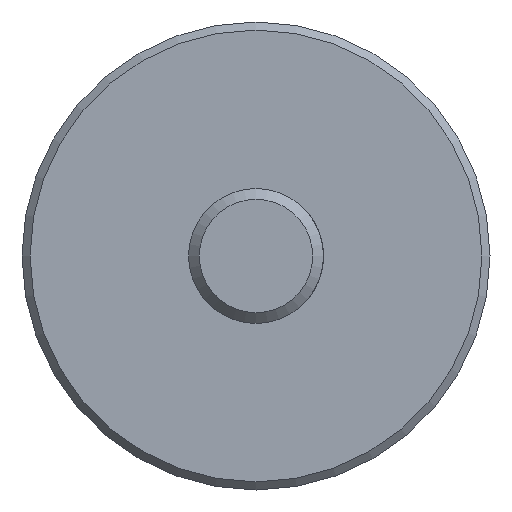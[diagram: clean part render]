
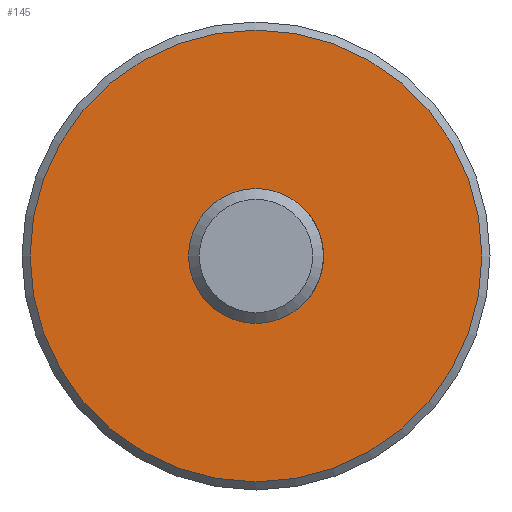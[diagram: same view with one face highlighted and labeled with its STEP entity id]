
A CAD part, front view. The second image highlights one B-rep face of the part: STEP entity #145.
In plain terms, the highlighted planar face has unit normal (0, -1, 0).
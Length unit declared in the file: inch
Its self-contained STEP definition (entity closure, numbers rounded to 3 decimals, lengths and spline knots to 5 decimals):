
#73 = CARTESIAN_POINT ( 'NONE',  ( 0., 3.35, 0. ) ) ;
#74 = VERTEX_POINT ( 'NONE', #170 ) ;
#86 = CIRCLE ( 'NONE', #562, 1.255 ) ;
#96 = AXIS2_PLACEMENT_3D ( 'NONE', #152, #450, #369 ) ;
#125 = CARTESIAN_POINT ( 'NONE',  ( 0., 3.35, 1.255 ) ) ;
#145 = ADVANCED_FACE ( 'NONE', ( #194, #405 ), #190, .F. ) ;
#152 = CARTESIAN_POINT ( 'NONE',  ( 0.375, 3.35, 0. ) ) ;
#170 = CARTESIAN_POINT ( 'NONE',  ( 0., 3.35, 0.375 ) ) ;
#190 = PLANE ( 'NONE',  #96 ) ;
#194 = FACE_OUTER_BOUND ( 'NONE', #470, .T. ) ;
#217 = VERTEX_POINT ( 'NONE', #125 ) ;
#232 = AXIS2_PLACEMENT_3D ( 'NONE', #73, #327, #243 ) ;
#243 = DIRECTION ( 'NONE',  ( 0., 0., 1. ) ) ;
#284 = EDGE_CURVE ( 'NONE', #74, #74, #512, .T. ) ;
#294 = EDGE_CURVE ( 'NONE', #217, #217, #86, .T. ) ;
#303 = ORIENTED_EDGE ( 'NONE', *, *, #284, .T. ) ;
#327 = DIRECTION ( 'NONE',  ( 0., 1., 0. ) ) ;
#348 = EDGE_LOOP ( 'NONE', ( #303 ) ) ;
#369 = DIRECTION ( 'NONE',  ( 0., 0., 1. ) ) ;
#375 = CARTESIAN_POINT ( 'NONE',  ( 0., 3.35, 0. ) ) ;
#384 = DIRECTION ( 'NONE',  ( 0., 1., 0. ) ) ;
#405 = FACE_BOUND ( 'NONE', #348, .T. ) ;
#426 = ORIENTED_EDGE ( 'NONE', *, *, #294, .F. ) ;
#427 = DIRECTION ( 'NONE',  ( 0., 0., 1. ) ) ;
#450 = DIRECTION ( 'NONE',  ( 0., 1., 0. ) ) ;
#470 = EDGE_LOOP ( 'NONE', ( #426 ) ) ;
#512 = CIRCLE ( 'NONE', #232, 0.375 ) ;
#562 = AXIS2_PLACEMENT_3D ( 'NONE', #375, #384, #427 ) ;
